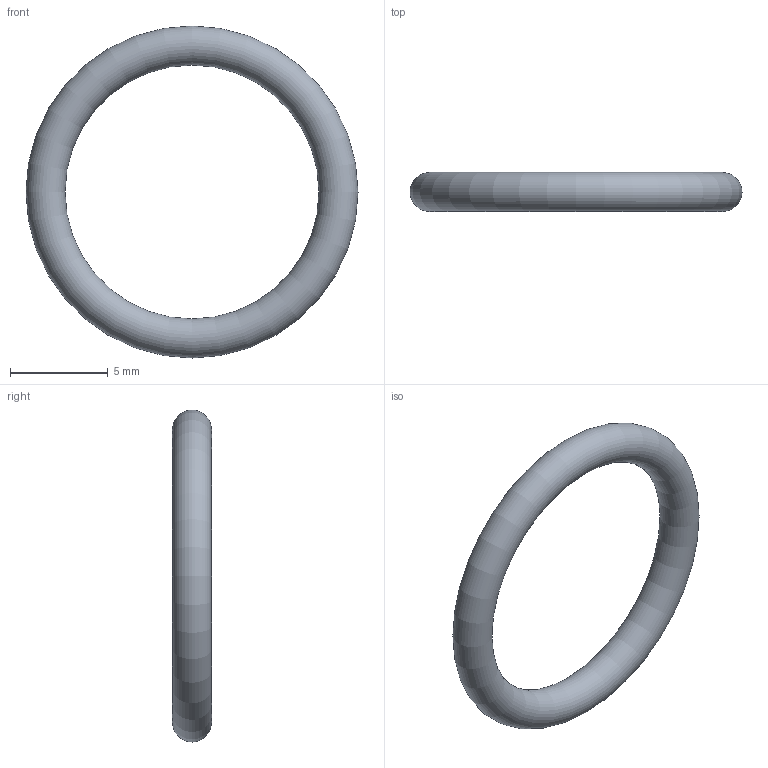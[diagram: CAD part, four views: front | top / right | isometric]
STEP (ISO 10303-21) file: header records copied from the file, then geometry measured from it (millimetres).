
FILE_DESCRIPTION( ( 'STEP AP203' ), '1' );
FILE_NAME( 'C:/Temp/Ganter_Step_05_03_2020/data/3_5/or638/O-Ring OR638-13.00-2.00-70.stp', '2020-03-12T13:44:22', ( 'License CC BY-ND 4.0' ), ( 'CADENAS' ), ' ', 'PARTsolutions', ' ' );
FILE_SCHEMA( ( 'CONFIG_CONTROL_DESIGN' ) );
Length unit declared in the file: millimetre
Products named in the file (1): _O-Ring OR638-13.00-2.00-70
Bounding box: 17 x 2 x 17 mm (x, y, z)
Volume: 148 mm3; surface area: 296.1 mm2
Topology: 1 solids, 1 shells, 1 faces, 2 edges, 1 vertices
Faces by surface type: torus 1
Entity records: 62 total; most frequent: CC_DESIGN_PERSON_AND_ORGANIZATION_ASSIGNMENT 5, PERSON_AND_ORGANIZATION_ROLE 4, DIRECTION 4, CARTESIAN_POINT 3, DATE_TIME_ROLE 2, CC_DESIGN_DATE_AND_TIME_ASSIGNMENT 2, AXIS2_PLACEMENT_3D 2, DIMENSIONAL_EXPONENTS 2
